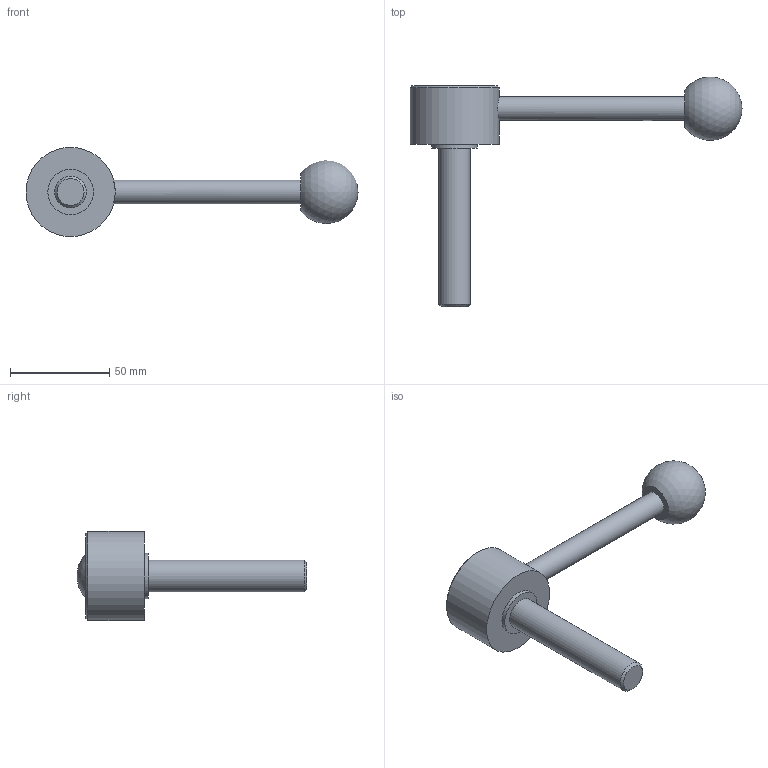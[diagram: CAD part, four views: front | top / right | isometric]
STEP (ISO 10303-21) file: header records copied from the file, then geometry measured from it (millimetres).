
FILE_DESCRIPTION( ( 'STEP AP203' ), '1' );
FILE_NAME( 'C:/Temp/Ganter_Step_05_03_2020/data/2_1/gn_125/gn_125_ms/gn_125_ms_d/Flat Adjustable Lever GN 125-45-M16-80-D.stp', '2020-03-05T11:00:52', ( 'License CC BY-ND 4.0' ), ( 'CADENAS' ), ' ', 'PARTsolutions', ' ' );
FILE_SCHEMA( ( 'CONFIG_CONTROL_DESIGN' ) );
Length unit declared in the file: millimetre
Products named in the file (1): _Flat Adjustable Lever GN 125-45-M16-80-D
Bounding box: 167.5 x 115.88 x 45 mm (x, y, z)
Volume: 90857.5 mm3; surface area: 17921.6 mm2
Topology: 1 solids, 1 shells, 14 faces, 23 edges, 15 vertices
Faces by surface type: plane 6, cylinder 5, cone 2, sphere 1
Full cylindrical faces by diameter (mm): 12 x1, 16 x1, 23 x1, 32 x1, 45 x1
Entity records: 402 total; most frequent: CARTESIAN_POINT 125, DIRECTION 54, AXIS2_PLACEMENT_3D 27, EDGE_LOOP 26, ORIENTED_EDGE 26, FACE_OUTER_BOUND 19, ADVANCED_FACE 14, VERTEX_POINT 14
